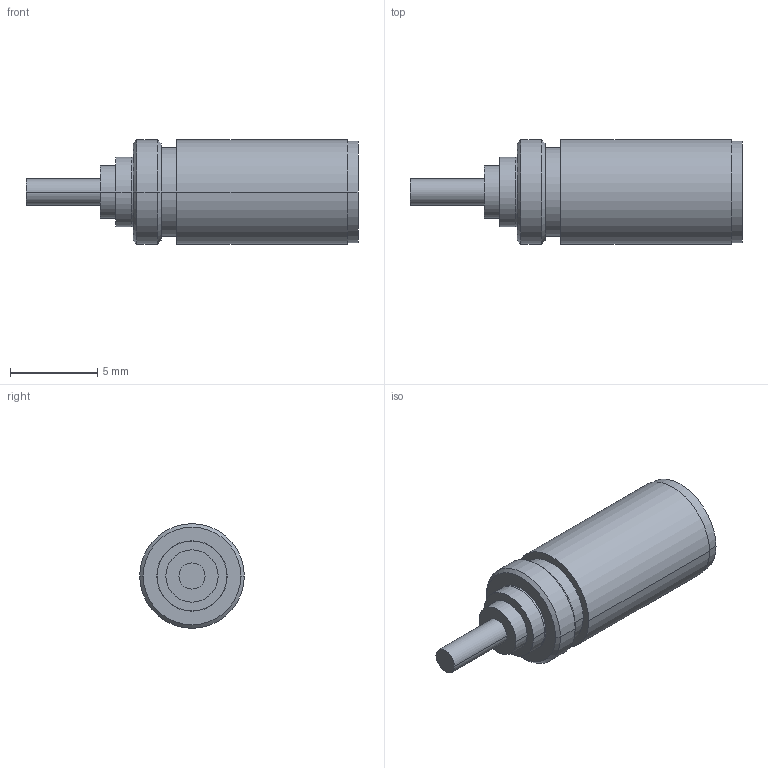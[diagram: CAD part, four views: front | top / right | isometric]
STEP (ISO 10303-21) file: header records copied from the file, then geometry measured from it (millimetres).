
FILE_DESCRIPTION((''),'2;1');
FILE_NAME('1928062','2016-10-04T',('mmagvisi'),(''),'CREO PARAMETRIC BY PTC INC, 2016050','CREO PARAMETRIC BY PTC INC, 2016050','');
FILE_SCHEMA(('CONFIG_CONTROL_DESIGN'));
Length unit declared in the file: millimetre
Products named in the file (1): 1928062
Bounding box: 19.05 x 6 x 6 mm (x, y, z)
Volume: 200.7 mm3; surface area: 504.9 mm2
Topology: 1 solids, 1 shells, 36 faces, 70 edges, 44 vertices
Faces by surface type: cylinder 18, plane 10, cone 8
Entity records: 1038 total; most frequent: DIRECTION 186, CARTESIAN_POINT 150, ORIENTED_EDGE 140, AXIS2_PLACEMENT_3D 80, EDGE_CURVE 70, COLOUR_RGB 58, VERTEX_POINT 44, EDGE_LOOP 44
